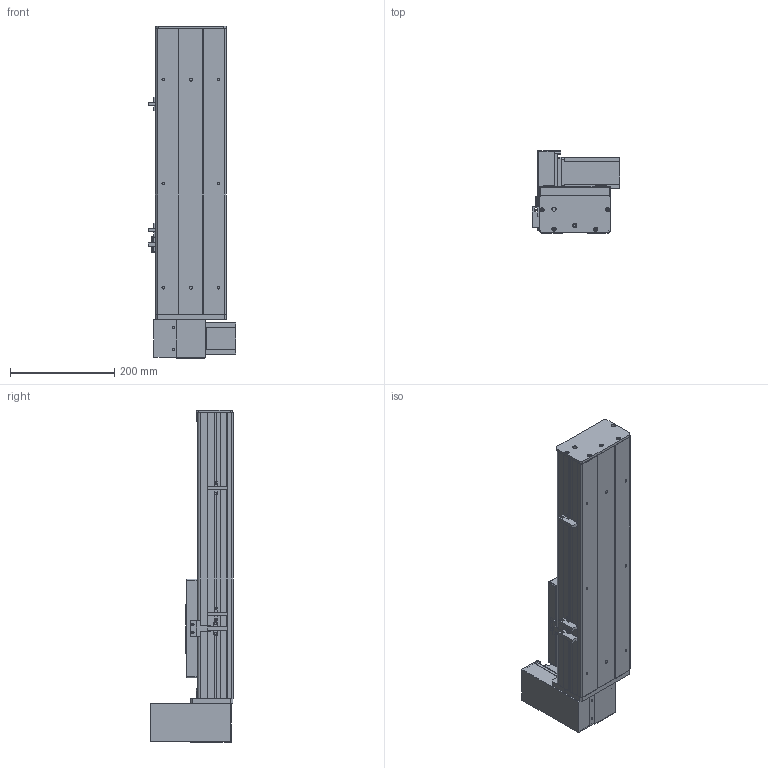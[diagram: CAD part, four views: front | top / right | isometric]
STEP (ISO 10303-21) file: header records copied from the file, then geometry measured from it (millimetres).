
FILE_DESCRIPTION (( 'STEP AP203' ), '1' );
FILE_NAME ('Y135CB-D90-S250-UR-P400W.STEP', '2020-02-18T03:30:23', ( '微软用户' ), ( '微软中国' ), 'SwSTEP 2.0', 'SolidWorks 2017', '' );
FILE_SCHEMA (( 'CONFIG_CONTROL_DESIGN' ));
Length unit declared in the file: millimetre
Products named in the file (18): C-詩湍揤踡え-陔; 135CB---遴掛极.-; Y135CB-D90-S250-UR-P400W; 135CB--詩湍-CE; 35CB---喘謫眊楊擘啣; Y100-135俋离換覜ん--; 0B-埴倛裔啣; Y135C-陔俋离換覜結え-; 0B-源倛裔啣; 5C--俋欶; C-雄赽釱--; 0B-萇儂楊擘啣; Y10B--々湍喘謫眊--666; san松下电机400不带刹车----; Y10B-耜蚾蟀諉啣----; 5CB --掛极耜裔啣-; Y135CB-耜裔; 00B-俋欶BM--
Assembly tree (21 placements, depth 2):
  Y135CB-D90-S250-UR-P400W
    Y135CB-耜裔
    135CB---遴掛极.-
    35CB---喘謫眊楊擘啣
    0B-埴倛裔啣
    0B-源倛裔啣
    0B-萇儂楊擘啣
    san松下电机400不带刹车----
    5CB --掛极耜裔啣-  x2
    C-詩湍揤踡え-陔  x2
    135CB--詩湍-CE
    Y100-135俋离換覜ん--  x3
    Y135C-陔俋离換覜結え-
    5C--俋欶
    C-雄赽釱--
    Y10B--々湍喘謫眊--666
    Y10B-耜蚾蟀諉啣----
    00B-俋欶BM--
Bounding box: 167.5 x 158.7 x 638 mm (x, y, z)
Volume: 2438826.2 mm3; surface area: 934302.4 mm2
Topology: 21 solids, 21 shells, 929 faces, 2455 edges, 1626 vertices
Faces by surface type: cylinder 457, plane 456, cone 16
Entity records: 28541 total; most frequent: DIRECTION 4739, CARTESIAN_POINT 4636, ORIENTED_EDGE 4386, EDGE_CURVE 2193, AXIS2_PLACEMENT_3D 1721, VERTEX_POINT 1454, VECTOR 1297, LINE 1297
